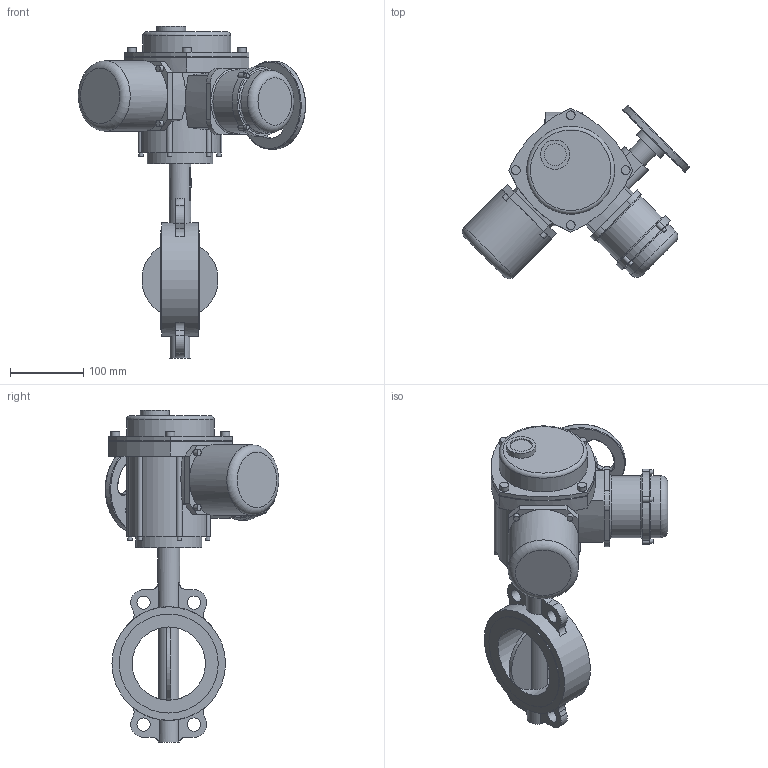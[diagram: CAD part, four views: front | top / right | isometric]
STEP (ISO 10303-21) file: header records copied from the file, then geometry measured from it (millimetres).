
FILE_DESCRIPTION(('STEP AP203'), '1');
FILE_NAME('青蜮铕 017W.Y_DN100_QT.Z 10', '', ('UNSPECIFIED'), ('UNSPECIFIED'), 'ASCON STEP Converter 1.6', 'ASCON Math Kernel', '');
FILE_SCHEMA(('CONFIG_CONTROL_DESIGN'));
Length unit declared in the file: millimetre
Bounding box: 310.08 x 236.54 x 453 mm (x, y, z)
Volume: 4406892.9 mm3; surface area: 359746.3 mm2
Topology: 1 solids, 1 shells, 306 faces, 721 edges, 456 vertices
Faces by surface type: cylinder 141, plane 117, torus 40, cone 8
Full cylindrical faces by diameter (mm): 6 x10, 6.647 x4, 8 x4, 10 x4, 12 x4, 12.386 x1, 18 x4, 30 x3, 40 x1, 45 x1, 85 x2, 90 x1, 96 x1, 100 x1, 120 x2, 135 x2, 155 x1
Entity records: 13217 total; most frequent: CARTESIAN_POINT 3699, DIRECTION 1584, ORIENTED_EDGE 1306, AXIS2_PLACEMENT_3D 670, EDGE_CURVE 653, VERTEX_POINT 451, EDGE_LOOP 429, CIRCLE 363
